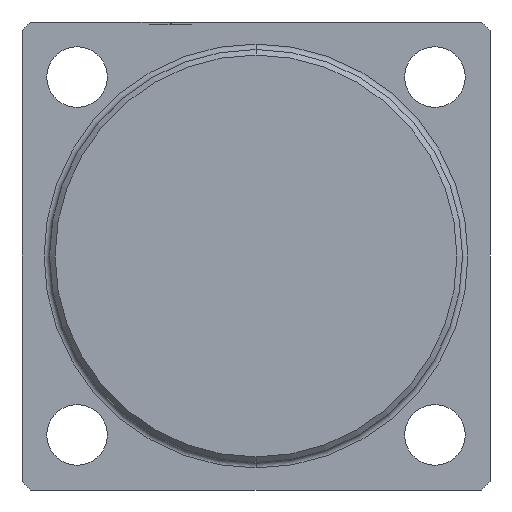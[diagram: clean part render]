
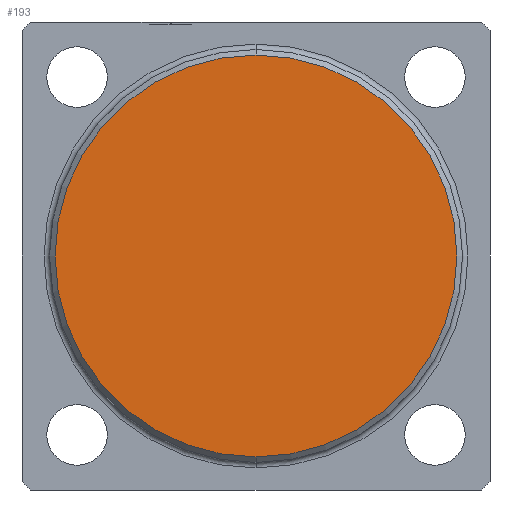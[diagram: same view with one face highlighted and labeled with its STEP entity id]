
A CAD part, front view. The second image highlights one B-rep face of the part: STEP entity #193.
In plain terms, the highlighted planar face has unit normal (0, -1, 0).
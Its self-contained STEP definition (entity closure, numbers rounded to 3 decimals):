
#43 = DIRECTION ( 'NONE',  ( 0., 0., -1. ) ) ;
#94 = CIRCLE ( 'NONE', #2847, 36.5 ) ;
#97 = VERTEX_POINT ( 'NONE', #1065 ) ;
#193 = ADVANCED_FACE ( 'NONE', ( #1072 ), #3207, .T. ) ;
#402 = VERTEX_POINT ( 'NONE', #2737 ) ;
#567 = DIRECTION ( 'NONE',  ( 0., 0., -1. ) ) ;
#719 = AXIS2_PLACEMENT_3D ( 'NONE', #833, #2400, #567 ) ;
#732 = EDGE_LOOP ( 'NONE', ( #2960, #923 ) ) ;
#833 = CARTESIAN_POINT ( 'NONE',  ( 0., -99., 0. ) ) ;
#923 = ORIENTED_EDGE ( 'NONE', *, *, #1881, .T. ) ;
#1065 = CARTESIAN_POINT ( 'NONE',  ( 0., -99., 36.5 ) ) ;
#1072 = FACE_OUTER_BOUND ( 'NONE', #732, .T. ) ;
#1455 = CIRCLE ( 'NONE', #2297, 36.5 ) ;
#1528 = DIRECTION ( 'NONE',  ( 0., -1., 0. ) ) ;
#1626 = DIRECTION ( 'NONE',  ( 0., -1., 0. ) ) ;
#1881 = EDGE_CURVE ( 'NONE', #402, #97, #94, .T. ) ;
#2297 = AXIS2_PLACEMENT_3D ( 'NONE', #3213, #1626, #43 ) ;
#2400 = DIRECTION ( 'NONE',  ( 0., -1., 0. ) ) ;
#2647 = EDGE_CURVE ( 'NONE', #97, #402, #1455, .T. ) ;
#2737 = CARTESIAN_POINT ( 'NONE',  ( 0., -99., -36.5 ) ) ;
#2847 = AXIS2_PLACEMENT_3D ( 'NONE', #3117, #1528, #3388 ) ;
#2960 = ORIENTED_EDGE ( 'NONE', *, *, #2647, .T. ) ;
#3117 = CARTESIAN_POINT ( 'NONE',  ( 0., -99., 0. ) ) ;
#3207 = PLANE ( 'NONE',  #719 ) ;
#3213 = CARTESIAN_POINT ( 'NONE',  ( 0., -99., 0. ) ) ;
#3388 = DIRECTION ( 'NONE',  ( 0., 0., -1. ) ) ;
